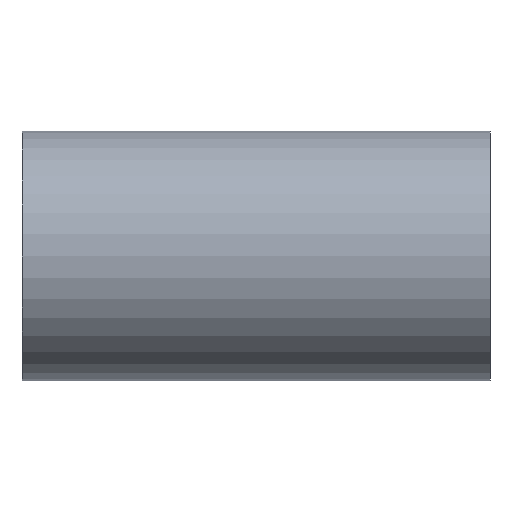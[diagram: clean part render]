
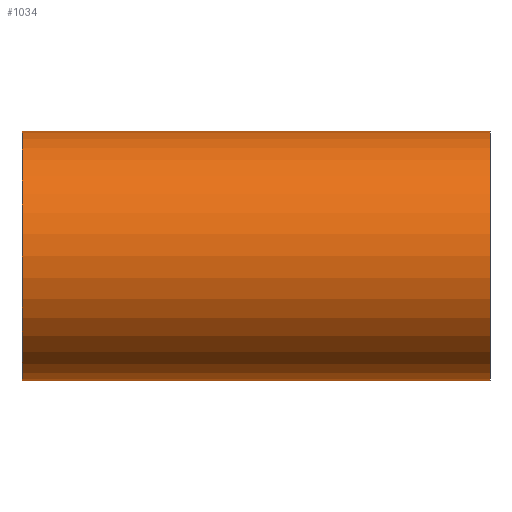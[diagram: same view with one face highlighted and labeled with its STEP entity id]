
A CAD part, front view. The second image highlights one B-rep face of the part: STEP entity #1034.
In plain terms, the highlighted cylindrical face has radius 76.2 mm (diameter 152.4 mm), a partial arc.
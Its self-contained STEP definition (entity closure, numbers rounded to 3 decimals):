
#58 = DIRECTION ( 'NONE',  ( 1., 0., 0. ) ) ;
#150 = DIRECTION ( 'NONE',  ( 1., 0., 0. ) ) ;
#231 = DIRECTION ( 'NONE',  ( -1., 0., 0. ) ) ;
#232 = VERTEX_POINT ( 'NONE', #658 ) ;
#342 = FACE_OUTER_BOUND ( 'NONE', #440, .T. ) ;
#440 = EDGE_LOOP ( 'NONE', ( #1806, #1522, #1620, #1024 ) ) ;
#482 = AXIS2_PLACEMENT_3D ( 'NONE', #823, #841, #857 ) ;
#510 = EDGE_CURVE ( 'NONE', #1440, #1987, #1598, .T. ) ;
#525 = CARTESIAN_POINT ( 'NONE',  ( 142.9, 0., -76.2 ) ) ;
#564 = DIRECTION ( 'NONE',  ( 0., 0., -1. ) ) ;
#658 = CARTESIAN_POINT ( 'NONE',  ( -142.9, 0., -76.2 ) ) ;
#823 = CARTESIAN_POINT ( 'NONE',  ( -142.9, 0., 0. ) ) ;
#841 = DIRECTION ( 'NONE',  ( 1., 0., 0. ) ) ;
#857 = DIRECTION ( 'NONE',  ( 0., 0., -1. ) ) ;
#888 = CIRCLE ( 'NONE', #482, 76.2 ) ;
#955 = CARTESIAN_POINT ( 'NONE',  ( -142.9, 0., -76.2 ) ) ;
#1024 = ORIENTED_EDGE ( 'NONE', *, *, #1654, .T. ) ;
#1034 = ADVANCED_FACE ( 'NONE', ( #342 ), #1172, .T. ) ;
#1044 = AXIS2_PLACEMENT_3D ( 'NONE', #1222, #231, #1389 ) ;
#1148 = VECTOR ( 'NONE', #150, 1000. ) ;
#1172 = CYLINDRICAL_SURFACE ( 'NONE', #1611, 76.2 ) ;
#1222 = CARTESIAN_POINT ( 'NONE',  ( 142.9, 0., 0. ) ) ;
#1278 = CIRCLE ( 'NONE', #1044, 76.2 ) ;
#1371 = CARTESIAN_POINT ( 'NONE',  ( -142.9, 0., 0. ) ) ;
#1389 = DIRECTION ( 'NONE',  ( 0., 0., -1. ) ) ;
#1440 = VERTEX_POINT ( 'NONE', #2040 ) ;
#1522 = ORIENTED_EDGE ( 'NONE', *, *, #1587, .T. ) ;
#1562 = VECTOR ( 'NONE', #2079, 1000. ) ;
#1587 = EDGE_CURVE ( 'NONE', #1440, #232, #888, .T. ) ;
#1598 = LINE ( 'NONE', #1625, #1148 ) ;
#1607 = VERTEX_POINT ( 'NONE', #525 ) ;
#1611 = AXIS2_PLACEMENT_3D ( 'NONE', #1371, #58, #564 ) ;
#1620 = ORIENTED_EDGE ( 'NONE', *, *, #1853, .T. ) ;
#1625 = CARTESIAN_POINT ( 'NONE',  ( -142.9, 0., 76.2 ) ) ;
#1654 = EDGE_CURVE ( 'NONE', #1607, #1987, #1278, .T. ) ;
#1711 = LINE ( 'NONE', #955, #1562 ) ;
#1806 = ORIENTED_EDGE ( 'NONE', *, *, #510, .F. ) ;
#1853 = EDGE_CURVE ( 'NONE', #232, #1607, #1711, .T. ) ;
#1987 = VERTEX_POINT ( 'NONE', #2082 ) ;
#2040 = CARTESIAN_POINT ( 'NONE',  ( -142.9, 0., 76.2 ) ) ;
#2079 = DIRECTION ( 'NONE',  ( 1., 0., 0. ) ) ;
#2082 = CARTESIAN_POINT ( 'NONE',  ( 142.9, 0., 76.2 ) ) ;
